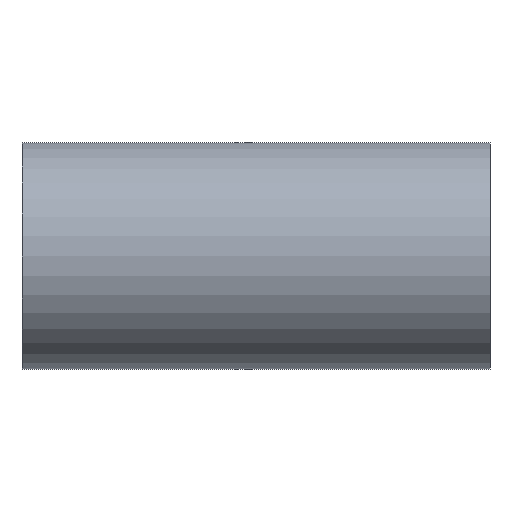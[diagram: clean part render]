
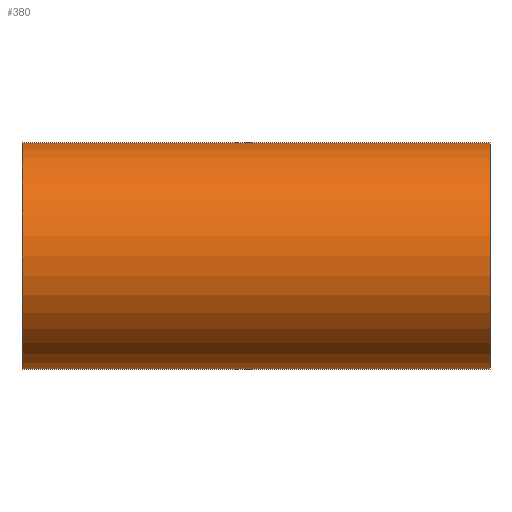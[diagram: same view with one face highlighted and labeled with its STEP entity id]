
A CAD part, front view. The second image highlights one B-rep face of the part: STEP entity #380.
In plain terms, the highlighted cylindrical face has radius 25.4 mm (diameter 50.8 mm), a partial arc.
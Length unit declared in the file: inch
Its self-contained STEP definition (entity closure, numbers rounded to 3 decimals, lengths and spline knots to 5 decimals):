
#27 = DIRECTION ( 'NONE',  ( 0., 0., 1. ) ) ;
#40 = CARTESIAN_POINT ( 'NONE',  ( 2.0625, 0., 1. ) ) ;
#47 = LINE ( 'NONE', #129, #522 ) ;
#73 = CYLINDRICAL_SURFACE ( 'NONE', #331, 1. ) ;
#81 = DIRECTION ( 'NONE',  ( 1., 0., 0. ) ) ;
#91 = EDGE_LOOP ( 'NONE', ( #348, #131, #461, #580 ) ) ;
#102 = CARTESIAN_POINT ( 'NONE',  ( 2.0625, 0., 0. ) ) ;
#120 = VERTEX_POINT ( 'NONE', #284 ) ;
#129 = CARTESIAN_POINT ( 'NONE',  ( 2.0625, 0., -1. ) ) ;
#131 = ORIENTED_EDGE ( 'NONE', *, *, #209, .F. ) ;
#140 = DIRECTION ( 'NONE',  ( 0., 0., -1. ) ) ;
#151 = DIRECTION ( 'NONE',  ( -1., 0., 0. ) ) ;
#167 = CIRCLE ( 'NONE', #455, 1. ) ;
#184 = DIRECTION ( 'NONE',  ( 1., 0., 0. ) ) ;
#186 = CARTESIAN_POINT ( 'NONE',  ( 2.0625, 0., 0. ) ) ;
#193 = CARTESIAN_POINT ( 'NONE',  ( 2.0625, 0., 1. ) ) ;
#209 = EDGE_CURVE ( 'NONE', #237, #234, #167, .T. ) ;
#217 = VERTEX_POINT ( 'NONE', #227 ) ;
#227 = CARTESIAN_POINT ( 'NONE',  ( -2.0625, 0., -1. ) ) ;
#234 = VERTEX_POINT ( 'NONE', #282 ) ;
#237 = VERTEX_POINT ( 'NONE', #40 ) ;
#282 = CARTESIAN_POINT ( 'NONE',  ( 2.0625, 0., -1. ) ) ;
#284 = CARTESIAN_POINT ( 'NONE',  ( -2.0625, 0., 1. ) ) ;
#315 = DIRECTION ( 'NONE',  ( -1., 0., 0. ) ) ;
#321 = AXIS2_PLACEMENT_3D ( 'NONE', #361, #81, #413 ) ;
#331 = AXIS2_PLACEMENT_3D ( 'NONE', #102, #315, #27 ) ;
#348 = ORIENTED_EDGE ( 'NONE', *, *, #574, .F. ) ;
#361 = CARTESIAN_POINT ( 'NONE',  ( -2.0625, 0., 0. ) ) ;
#380 = ADVANCED_FACE ( 'NONE', ( #440 ), #73, .T. ) ;
#413 = DIRECTION ( 'NONE',  ( 0., 0., -1. ) ) ;
#415 = LINE ( 'NONE', #193, #504 ) ;
#422 = DIRECTION ( 'NONE',  ( -1., 0., 0. ) ) ;
#440 = FACE_OUTER_BOUND ( 'NONE', #91, .T. ) ;
#443 = CIRCLE ( 'NONE', #321, 1. ) ;
#455 = AXIS2_PLACEMENT_3D ( 'NONE', #186, #184, #140 ) ;
#461 = ORIENTED_EDGE ( 'NONE', *, *, #585, .T. ) ;
#504 = VECTOR ( 'NONE', #422, 39.37008 ) ;
#522 = VECTOR ( 'NONE', #151, 39.37008 ) ;
#531 = EDGE_CURVE ( 'NONE', #120, #217, #443, .T. ) ;
#574 = EDGE_CURVE ( 'NONE', #234, #217, #47, .T. ) ;
#580 = ORIENTED_EDGE ( 'NONE', *, *, #531, .T. ) ;
#585 = EDGE_CURVE ( 'NONE', #237, #120, #415, .T. ) ;
